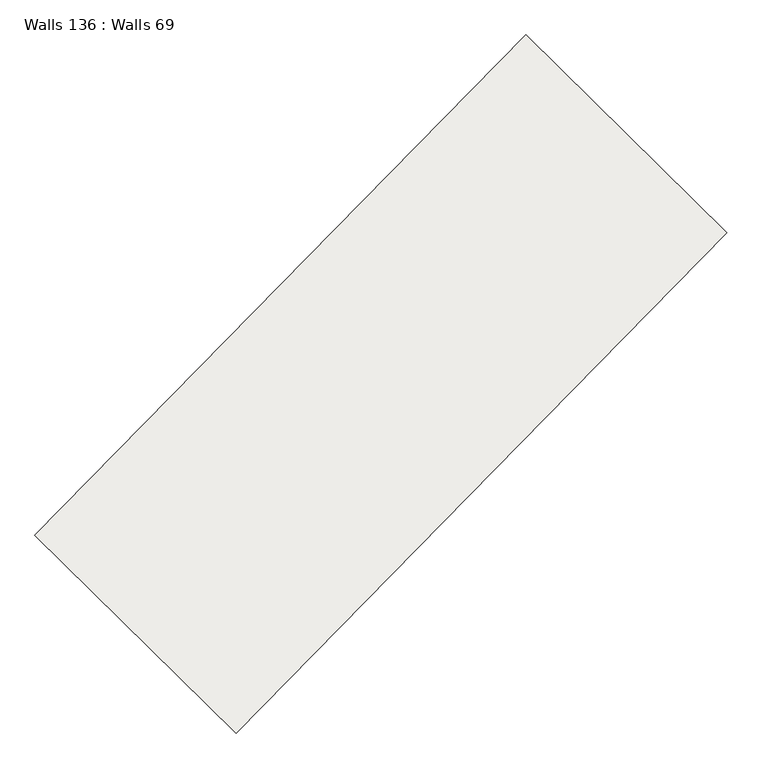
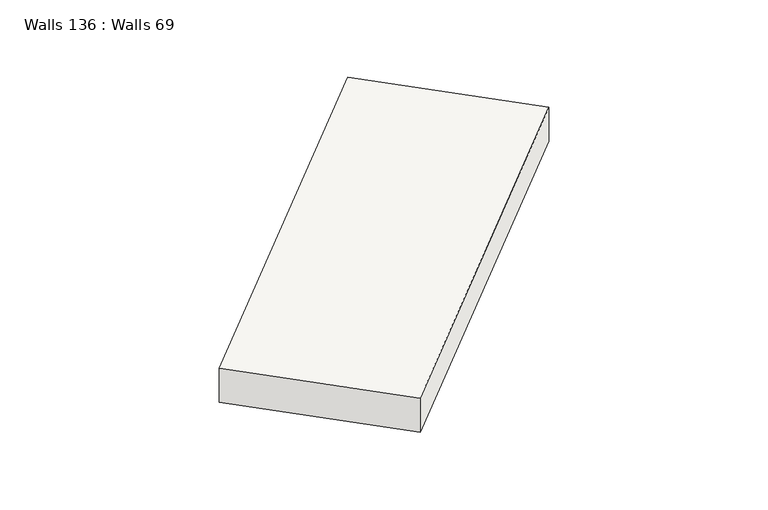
"""IFC4 building model written with IfcOpenShell, lengths in millimetres: slab geometry, Walls 136 : Walls 69."""

import ifcopenshell
import ifcopenshell.guid

model = None  # the IFC model being written
_history = None  # IfcOwnerHistory: only IFC2X3 demands one
_inside = {}  # id of a spatial element -> (the spatial element, [elements in it])
_under = {}  # id of a project, library or spatial element -> (it, [spatial elements below it])
_declared = {}  # id of a project -> (the project, [libraries it declares])
_typed = {}  # id of a type object -> (the type object, [elements of that type])
_made_of = {}  # id of a material, layer set ... -> (it, [elements and type objects made of it])


def new_model(schema):
    """Start an empty IFC model of exactly this schema.

    Asked for "IFC4X3", IfcOpenShell would pick the latest addendum, in which some entities
    have other attributes; the version numbers below select the first issue.
    IFC2X3 requires an IfcOwnerHistory on every rooted entity: one is made here for all.
    """
    global model, _history
    if schema == "IFC4X3":
        model = ifcopenshell.file(schema_version=(4, 3, 0, 0))
    else:
        model = ifcopenshell.file(schema=schema)
    _inside.clear()
    _under.clear()
    _declared.clear()
    _typed.clear()
    _made_of.clear()
    _history = None
    if model.schema == "IFC2X3":
        org = make("IfcOrganization", Name="unknown")
        user = make(
            "IfcPersonAndOrganization",
            ThePerson=make("IfcPerson", FamilyName="unknown"),
            TheOrganization=org,
        )
        app = make(
            "IfcApplication",
            ApplicationDeveloper=org,
            Version="unknown",
            ApplicationFullName="unknown",
            ApplicationIdentifier="unknown",
        )
        _history = make(
            "IfcOwnerHistory",
            OwningUser=user,
            OwningApplication=app,
            ChangeAction="ADDED",
            CreationDate=0,
        )
    return model


def make(cls, **values):
    """One entity of the class cls with the attributes given. An attribute that is None is left unset."""
    return model.create_entity(
        cls, **{name: value for name, value in values.items() if value is not None}
    )


def rooted(cls, **values):
    """An entity with a GlobalId (a new one), such as an element, a storey or a relation."""
    return make(cls, GlobalId=ifcopenshell.guid.new(), OwnerHistory=_history, **values)


def si_unit(unit_type, name, prefix=None):
    """IfcSIUnit, for example si_unit("LENGTHUNIT", "METRE", prefix="MILLI")."""
    return make("IfcSIUnit", UnitType=unit_type, Prefix=prefix, Name=name)


def assignment(units):
    """IfcUnitAssignment: the units of a project."""
    return None if units is None else make("IfcUnitAssignment", Units=units)


def point(xyz):
    """IfcCartesianPoint."""
    return None if xyz is None else make("IfcCartesianPoint", Coordinates=xyz)


def direction(xyz):
    """IfcDirection."""
    return None if xyz is None else make("IfcDirection", DirectionRatios=xyz)


def frame(location, z_axis=None, x_axis=None):
    """IfcAxis2Placement3D, a coordinate frame: its origin and axes. An axis left out is left unset."""
    return make(
        "IfcAxis2Placement3D",
        Location=point(location),
        Axis=direction(z_axis),
        RefDirection=direction(x_axis),
    )


def origin():
    """The frame at (0, 0, 0) with its axes left unset."""
    return frame((0.0, 0.0, 0.0))


def place(relative_to, where):
    """IfcLocalPlacement: puts the frame where relative to a parent placement (None: the world)."""
    return make(
        "IfcLocalPlacement", PlacementRelTo=relative_to, RelativePlacement=where
    )


def context(
    kind, dimensions, precision=None, world=None, true_north=None, identifier=None
):
    """IfcGeometricRepresentationContext, for example the 3D "Model" context."""
    return make(
        "IfcGeometricRepresentationContext",
        ContextIdentifier=identifier,
        ContextType=kind,
        CoordinateSpaceDimension=dimensions,
        Precision=precision,
        WorldCoordinateSystem=world,
        TrueNorth=true_north,
    )


def project(units=None, contexts=None):
    """IfcProject with its units and contexts."""
    return rooted(
        "IfcProject",
        Name="project",
        RepresentationContexts=contexts,
        UnitsInContext=assignment(units),
    )


def spatial(cls, under=None, at=None, **own):
    """A site, building, storey or space (cls), placed at a placement, below another one or the project."""
    s = rooted(cls, ObjectPlacement=at, **own)
    if under is not None:
        _under.setdefault(under.id(), (under, []))[1].append(s)
    return s


def faces_of(points, faces, orient=None, outer=None):
    """IfcFace entities. A face is a list of loops; a loop is a list of indices into points, from 0.

    orient and outer hold one flag for each loop. By default every Orientation is true, the
    first loop of a face is its IfcFaceOuterBound and the others are IfcFaceBound.
    """
    made = []
    for i, loops in enumerate(faces):
        bounds = []
        for j, loop in enumerate(loops):
            is_outer = j == 0 if outer is None else outer[i][j]
            bounds.append(
                make(
                    "IfcFaceOuterBound" if is_outer else "IfcFaceBound",
                    Bound=make("IfcPolyLoop", Polygon=[points[k] for k in loop]),
                    Orientation=True if orient is None else orient[i][j],
                )
            )
        made.append(make("IfcFace", Bounds=bounds))
    return made


def faceted_brep(points, faces, orient=None, outer=None, voids=None):
    """IfcFacetedBrep: a solid bounded by flat faces; with voids (closed shells), ...WithVoids."""
    shared = [point(p) for p in points]
    hull = make("IfcClosedShell", CfsFaces=faces_of(shared, faces, orient, outer))
    if voids is None:
        return make("IfcFacetedBrep", Outer=hull)
    return make(
        "IfcFacetedBrepWithVoids",
        Outer=hull,
        Voids=[
            make(cls, CfsFaces=faces_of(shared, fs, o, b)) for cls, fs, o, b in voids
        ],
    )


def shape(context_of_items, identifier, shape_type, items):
    """IfcShapeRepresentation: the items that make up one representation, for example the "Body"."""
    return make(
        "IfcShapeRepresentation",
        ContextOfItems=context_of_items,
        RepresentationIdentifier=identifier,
        RepresentationType=shape_type,
        Items=items,
    )


def source(mapping_origin, context_of_items, identifier, shape_type, items):
    """IfcRepresentationMap: a shape defined once, which mapped items show again and again."""
    return make(
        "IfcRepresentationMap",
        MappingOrigin=mapping_origin,
        MappedRepresentation=shape(context_of_items, identifier, shape_type, items),
    )


def transform(
    local_origin,
    x_axis=None,
    y_axis=None,
    z_axis=None,
    scale=None,
    scale2=None,
    scale3=None,
    uniform=True,
):
    """IfcCartesianTransformationOperator3D, or its non-uniform kind. x_axis, y_axis, z_axis: its Axis1, 2, 3."""
    if uniform:
        return make(
            "IfcCartesianTransformationOperator3D",
            Axis1=direction(x_axis),
            Axis2=direction(y_axis),
            LocalOrigin=point(local_origin),
            Scale=scale,
            Axis3=direction(z_axis),
        )
    return make(
        "IfcCartesianTransformationOperator3DnonUniform",
        Axis1=direction(x_axis),
        Axis2=direction(y_axis),
        LocalOrigin=point(local_origin),
        Scale=scale,
        Axis3=direction(z_axis),
        Scale2=scale2,
        Scale3=scale3,
    )


def mapped(mapping_source, mapping_target):
    """IfcMappedItem: shows the shape of a source again, moved by a transform."""
    return make(
        "IfcMappedItem", MappingSource=mapping_source, MappingTarget=mapping_target
    )


def made_of(thing, what):
    """Note that an element or type object is made of a material, layer set ...; save() writes the relation."""
    if what is not None:
        _made_of.setdefault(what.id(), (what, []))[1].append(thing)
    return thing


def element(
    cls,
    number,
    at=None,
    inside=None,
    cuts=None,
    type_object=None,
    material=None,
    context=None,
    identifier="Body",
    shape_type=None,
    held_by="IfcProductDefinitionShape",
    body=None,
    shapes=None,
    **own,
):
    """One element of the class cls, such as IfcWall. Its Tag is "e" and its number.

    at: its placement. inside: the storey or other place that contains it. cuts: it is an
    opening in that element (IfcRelVoidsElement). A single representation is given by context,
    identifier, shape_type and body (its items); several are given by shapes. held_by: the class
    of the entity that holds the representations. save() writes the other relations.
    """
    e = rooted(cls, Tag="e%d" % number, ObjectPlacement=at, **own)
    if body is not None:
        shapes = [shape(context, identifier, shape_type, body)]
    if shapes is not None:
        e.Representation = make(held_by, Representations=shapes)
    if inside is not None:
        _inside.setdefault(inside.id(), (inside, []))[1].append(e)
    if cuts is not None:
        rooted(
            "IfcRelVoidsElement", RelatingBuildingElement=cuts, RelatedOpeningElement=e
        )
    if type_object is not None:
        _typed.setdefault(type_object.id(), (type_object, []))[1].append(e)
    return made_of(e, material)


def aggregate(whole, parts):
    """IfcRelAggregates: a whole, such as a stair, and the parts it consists of."""
    return rooted("IfcRelAggregates", RelatingObject=whole, RelatedObjects=parts)


def save(model, path):
    """Write the relations noted so far, then the file.

    IfcRelAggregates (storeys below a building ...), IfcRelContainedInSpatialStructure (elements
    in a storey), IfcRelDefinesByType, IfcRelAssociatesMaterial and IfcRelDeclares: one each for
    every whole, place, type object, material and project.
    """
    for whole, parts in _under.values():
        aggregate(whole, parts)
    for where, things in _inside.values():
        rooted(
            "IfcRelContainedInSpatialStructure",
            RelatedElements=things,
            RelatingStructure=where,
        )
    for kind, things in _typed.values():
        rooted("IfcRelDefinesByType", RelatedObjects=things, RelatingType=kind)
    for what, things in _made_of.values():
        rooted("IfcRelAssociatesMaterial", RelatedObjects=things, RelatingMaterial=what)
    for by, libraries in _declared.values():
        rooted("IfcRelDeclares", RelatingContext=by, RelatedDefinitions=libraries)
    model.write(path)


def walls_136_walls_69_5a40291e(model_context):
    return source(origin(), model_context, "Body", "Brep", [
        faceted_brep([(27948.3941322, -125725.1332997, 639240.0), (27948.3941322, -125725.1332997, 638540.0), (30446.4707074, -128176.5845821, 638540.0), (30446.4707074, -128176.5845821, 639240.0), (34042.0003645, -119515.6274354, 639330.0), (36540.0769432, -121967.0787213, 639330.0), (36540.0769432, -121967.0787213, 638630.0), (34042.0003645, -119515.6274354, 638630.0)], [[[0, 1, 2, 3]], [[4, 5, 6, 7]], [[5, 4, 0, 3]], [[4, 7, 1, 0]], [[7, 6, 2, 1]], [[6, 5, 3, 2]]]),
    ])


if __name__ == "__main__":
    model = new_model("IFC4")
    model_context = context("Model", 3, world=origin())
    ifc_project = project(units=[si_unit("LENGTHUNIT", "METRE", prefix="MILLI")], contexts=[model_context])
    site = spatial("IfcSite", under=ifc_project)
    building = spatial("IfcBuilding", under=site)
    placement = place(None, origin())
    walls_136_walls_69_shape = walls_136_walls_69_5a40291e(model_context)
    element("IfcSlab", 1, ObjectType="Walls 136 : Walls 69", at=placement, inside=building, context=model_context, shape_type="MappedRepresentation", body=[
        mapped(walls_136_walls_69_shape, transform((0.0, 0.0, 0.0), x_axis=(1.0, 0.0, 0.0), y_axis=(0.0, 1.0, 0.0), z_axis=(0.0, 0.0, 1.0))),
    ])
    save(model, "model.ifc")
